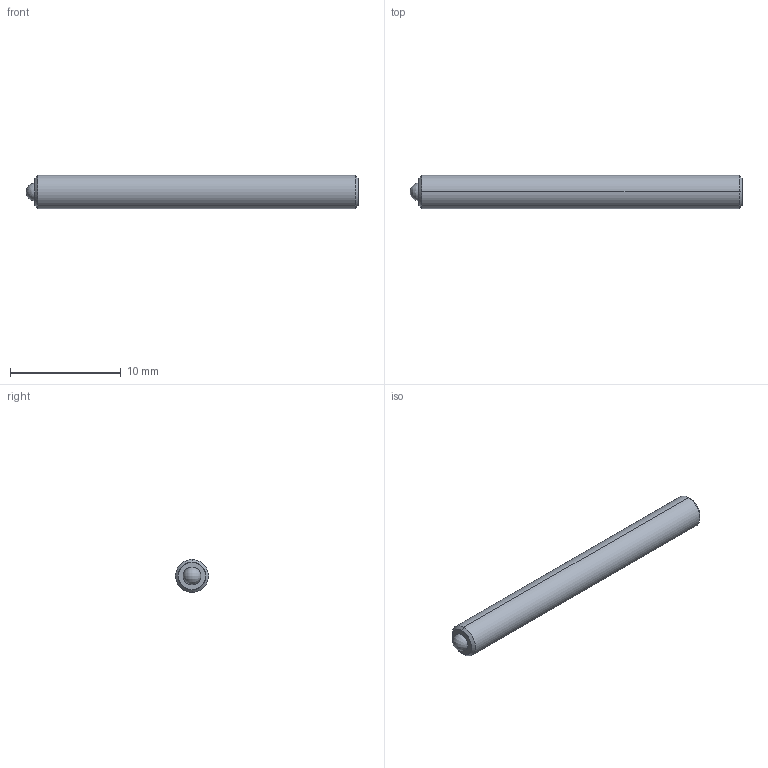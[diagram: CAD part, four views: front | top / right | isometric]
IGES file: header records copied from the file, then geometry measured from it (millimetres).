
Start section: SolidWorks IGES file using analytic representation for surfaces
Global section: file name: C:\Users\workpc\Desktop\KMA Solidworks\TS3-20 Series\TS3-20-30.IGS; native system: SolidWorks 2013; preprocessor: SolidWorks 2013; author: workpc; date: 130213.112213; units: millimetre
Bounding box: 30 x 3 x 3 mm (x, y, z)
Surface area: 308.8 mm2 (no closed solid volume)
Topology: 0 solids, 0 shells, 20 faces, 172 edges, 168 vertices
Faces by surface type: revolution 10, bspline 10
